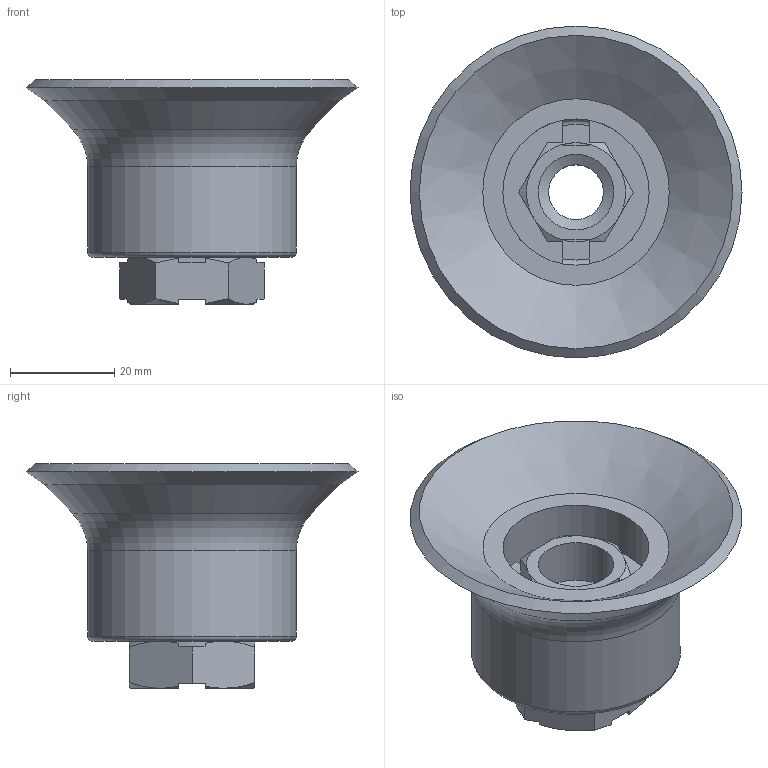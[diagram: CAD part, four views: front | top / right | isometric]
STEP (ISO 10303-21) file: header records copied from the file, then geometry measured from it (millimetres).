
FILE_DESCRIPTION(('STEP AP214'),'1');
FILE_NAME(').stp','2026-03-23T07:34:54',(' '),(' '),'Spatial InterOp 3D',' ',' ');
FILE_SCHEMA(('AUTOMOTIVE_DESIGN { 1 0 10303 214 1 1 1 1 }'));
Length unit declared in the file: millimetre
Products named in the file (7): LFK-M12; NUT; FITTING; LFK-M12-PKMG-60T; PKMG-60T-W
Assembly tree (6 placements, depth 5):
  LFK-M12-PKMG-60T
    LFK-M12
      LFK-M12
        LFK-M12
          NUT
          FITTING
    PKMG-60T-W
Bounding box: 63.58 x 63.58 x 43 mm (x, y, z)
Volume: 35407.4 mm3; surface area: 16480.8 mm2
Topology: 3 solids, 3 shells, 109 faces, 288 edges, 186 vertices
Faces by surface type: plane 55, cone 33, cylinder 18, torus 3
Full cylindrical faces by diameter (mm): 10.5 x2, 14.5 x1, 19 x1, 28 x1, 40 x1
Entity records: 4505 total; most frequent: CARTESIAN_POINT 833, ORIENTED_EDGE 542, DIRECTION 512, EDGE_CURVE 271, AXIS2_PLACEMENT_3D 190, VERTEX_POINT 183, LINE 132, VECTOR 132
